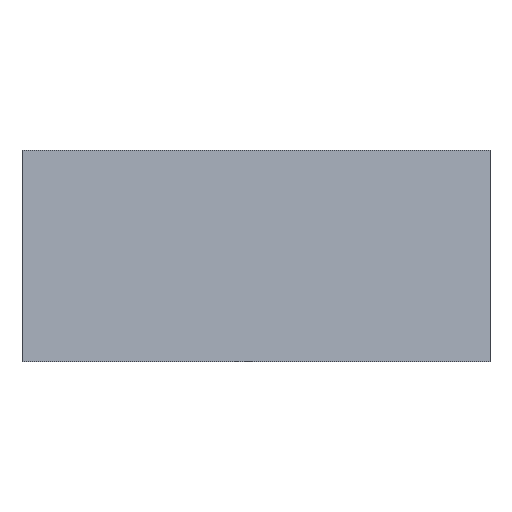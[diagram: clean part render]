
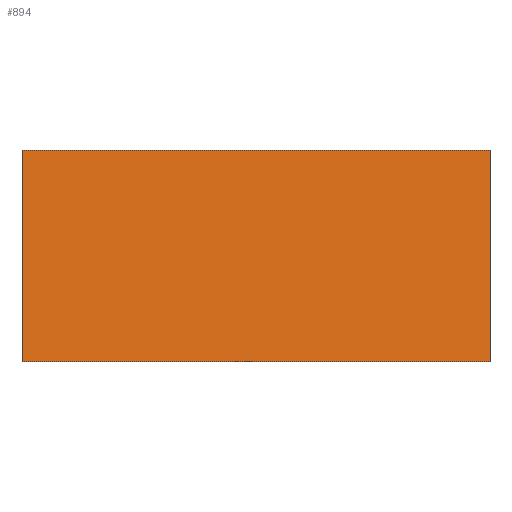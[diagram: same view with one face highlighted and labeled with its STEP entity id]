
A CAD part, front view. The second image highlights one B-rep face of the part: STEP entity #894.
In plain terms, the highlighted planar face has unit normal (0, -0.995, 0.104).
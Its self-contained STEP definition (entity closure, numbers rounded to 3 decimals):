
#32 = PLANE('',#33);
#33 = AXIS2_PLACEMENT_3D('',#34,#35,#36);
#34 = CARTESIAN_POINT('',(-29.,0.557,9.333));
#35 = DIRECTION('',(1.,-0.,-0.));
#36 = DIRECTION('',(0.,0.,-1.));
#113 = VERTEX_POINT('',#114);
#114 = CARTESIAN_POINT('',(-29.,-3.714,-20.833));
#128 = PLANE('',#129);
#129 = AXIS2_PLACEMENT_3D('',#130,#131,#132);
#130 = CARTESIAN_POINT('',(-400.,388.,-20.833));
#131 = DIRECTION('',(0.,0.,1.));
#132 = DIRECTION('',(-1.,-0.,0.));
#140 = EDGE_CURVE('',#113,#141,#143,.T.);
#141 = VERTEX_POINT('',#142);
#142 = CARTESIAN_POINT('',(-29.,-1.524,0.));
#143 = SURFACE_CURVE('',#144,(#148,#155),.PCURVE_S1.);
#144 = LINE('',#145,#146);
#145 = CARTESIAN_POINT('',(-29.,-4.59,-29.167));
#146 = VECTOR('',#147,1.);
#147 = DIRECTION('',(-0.,0.105,0.995));
#148 = PCURVE('',#32,#149);
#149 = DEFINITIONAL_REPRESENTATION('',(#150),#154);
#150 = LINE('',#151,#152);
#151 = CARTESIAN_POINT('',(38.5,-5.147));
#152 = VECTOR('',#153,1.);
#153 = DIRECTION('',(-0.995,0.105));
#154 = ( GEOMETRIC_REPRESENTATION_CONTEXT(2) 
PARAMETRIC_REPRESENTATION_CONTEXT() REPRESENTATION_CONTEXT('2D SPACE',''
  ) );
#155 = PCURVE('',#156,#161);
#156 = PLANE('',#157);
#157 = AXIS2_PLACEMENT_3D('',#158,#159,#160);
#158 = CARTESIAN_POINT('',(-29.,-4.59,-29.167));
#159 = DIRECTION('',(0.,0.995,-0.105));
#160 = DIRECTION('',(0.,-0.105,-0.995));
#161 = DEFINITIONAL_REPRESENTATION('',(#162),#166);
#162 = LINE('',#163,#164);
#163 = CARTESIAN_POINT('',(-0.,0.));
#164 = VECTOR('',#165,1.);
#165 = DIRECTION('',(-1.,0.));
#166 = ( GEOMETRIC_REPRESENTATION_CONTEXT(2) 
PARAMETRIC_REPRESENTATION_CONTEXT() REPRESENTATION_CONTEXT('2D SPACE',''
  ) );
#184 = PLANE('',#185);
#185 = AXIS2_PLACEMENT_3D('',#186,#187,#188);
#186 = CARTESIAN_POINT('',(-400.,388.,0.));
#187 = DIRECTION('',(0.,0.,1.));
#188 = DIRECTION('',(-1.,-0.,0.));
#519 = PLANE('',#520);
#520 = AXIS2_PLACEMENT_3D('',#521,#522,#523);
#521 = CARTESIAN_POINT('',(17.,0.557,9.333));
#522 = DIRECTION('',(1.,-0.,-0.));
#523 = DIRECTION('',(0.,0.,-1.));
#849 = EDGE_CURVE('',#850,#141,#852,.T.);
#850 = VERTEX_POINT('',#851);
#851 = CARTESIAN_POINT('',(17.,-1.524,0.));
#852 = SURFACE_CURVE('',#853,(#857,#864),.PCURVE_S1.);
#853 = LINE('',#854,#855);
#854 = CARTESIAN_POINT('',(-214.5,-1.524,0.));
#855 = VECTOR('',#856,1.);
#856 = DIRECTION('',(-1.,-0.,0.));
#857 = PCURVE('',#184,#858);
#858 = DEFINITIONAL_REPRESENTATION('',(#859),#863);
#859 = LINE('',#860,#861);
#860 = CARTESIAN_POINT('',(-185.5,389.524));
#861 = VECTOR('',#862,1.);
#862 = DIRECTION('',(1.,-0.));
#863 = ( GEOMETRIC_REPRESENTATION_CONTEXT(2) 
PARAMETRIC_REPRESENTATION_CONTEXT() REPRESENTATION_CONTEXT('2D SPACE',''
  ) );
#864 = PCURVE('',#156,#865);
#865 = DEFINITIONAL_REPRESENTATION('',(#866),#870);
#866 = LINE('',#867,#868);
#867 = CARTESIAN_POINT('',(-29.327,185.5));
#868 = VECTOR('',#869,1.);
#869 = DIRECTION('',(-0.,1.));
#870 = ( GEOMETRIC_REPRESENTATION_CONTEXT(2) 
PARAMETRIC_REPRESENTATION_CONTEXT() REPRESENTATION_CONTEXT('2D SPACE',''
  ) );
#894 = ADVANCED_FACE('',(#895),#156,.F.);
#895 = FACE_BOUND('',#896,.T.);
#896 = EDGE_LOOP('',(#897,#898,#921,#942));
#897 = ORIENTED_EDGE('',*,*,#140,.F.);
#898 = ORIENTED_EDGE('',*,*,#899,.F.);
#899 = EDGE_CURVE('',#900,#113,#902,.T.);
#900 = VERTEX_POINT('',#901);
#901 = CARTESIAN_POINT('',(17.,-3.714,-20.833));
#902 = SURFACE_CURVE('',#903,(#907,#914),.PCURVE_S1.);
#903 = LINE('',#904,#905);
#904 = CARTESIAN_POINT('',(-214.5,-3.714,-20.833));
#905 = VECTOR('',#906,1.);
#906 = DIRECTION('',(-1.,-0.,0.));
#907 = PCURVE('',#156,#908);
#908 = DEFINITIONAL_REPRESENTATION('',(#909),#913);
#909 = LINE('',#910,#911);
#910 = CARTESIAN_POINT('',(-8.379,185.5));
#911 = VECTOR('',#912,1.);
#912 = DIRECTION('',(-0.,1.));
#913 = ( GEOMETRIC_REPRESENTATION_CONTEXT(2) 
PARAMETRIC_REPRESENTATION_CONTEXT() REPRESENTATION_CONTEXT('2D SPACE',''
  ) );
#914 = PCURVE('',#128,#915);
#915 = DEFINITIONAL_REPRESENTATION('',(#916),#920);
#916 = LINE('',#917,#918);
#917 = CARTESIAN_POINT('',(-185.5,391.714));
#918 = VECTOR('',#919,1.);
#919 = DIRECTION('',(1.,-0.));
#920 = ( GEOMETRIC_REPRESENTATION_CONTEXT(2) 
PARAMETRIC_REPRESENTATION_CONTEXT() REPRESENTATION_CONTEXT('2D SPACE',''
  ) );
#921 = ORIENTED_EDGE('',*,*,#922,.T.);
#922 = EDGE_CURVE('',#900,#850,#923,.T.);
#923 = SURFACE_CURVE('',#924,(#928,#935),.PCURVE_S1.);
#924 = LINE('',#925,#926);
#925 = CARTESIAN_POINT('',(17.,-4.59,-29.167));
#926 = VECTOR('',#927,1.);
#927 = DIRECTION('',(-0.,0.105,0.995));
#928 = PCURVE('',#156,#929);
#929 = DEFINITIONAL_REPRESENTATION('',(#930),#934);
#930 = LINE('',#931,#932);
#931 = CARTESIAN_POINT('',(-0.,-46.));
#932 = VECTOR('',#933,1.);
#933 = DIRECTION('',(-1.,0.));
#934 = ( GEOMETRIC_REPRESENTATION_CONTEXT(2) 
PARAMETRIC_REPRESENTATION_CONTEXT() REPRESENTATION_CONTEXT('2D SPACE',''
  ) );
#935 = PCURVE('',#519,#936);
#936 = DEFINITIONAL_REPRESENTATION('',(#937),#941);
#937 = LINE('',#938,#939);
#938 = CARTESIAN_POINT('',(38.5,-5.147));
#939 = VECTOR('',#940,1.);
#940 = DIRECTION('',(-0.995,0.105));
#941 = ( GEOMETRIC_REPRESENTATION_CONTEXT(2) 
PARAMETRIC_REPRESENTATION_CONTEXT() REPRESENTATION_CONTEXT('2D SPACE',''
  ) );
#942 = ORIENTED_EDGE('',*,*,#849,.T.);
